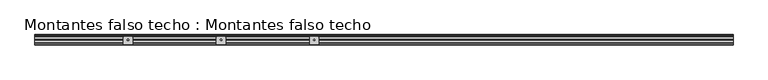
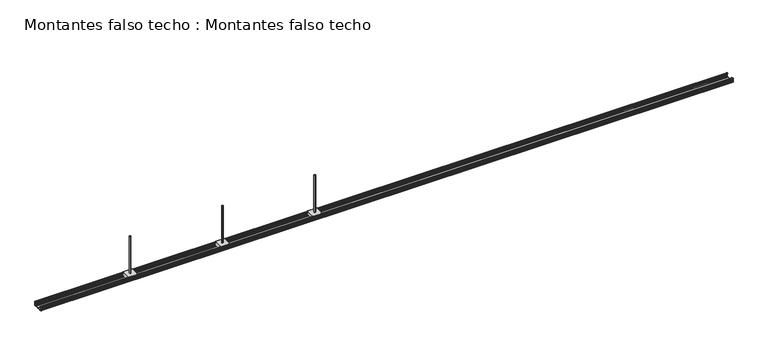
"""IFC4 building model written with IfcOpenShell, lengths in millimetres: proxy geometry, Montantes falso techo : Montantes falso techo."""

from ifc_helpers import new_model, si_unit, point, frame, frame_2d, origin, place, context, project, spatial, polyline, circle_curve, trimmed, segment, composite_curve, outline, extrude, source, transform, mapped, element, save
from ifc_brep_helpers import plane_surface, cylinder_surface, revolved_surface, advanced_brep


def montantes_falso_techo_montantes_falso_techo_cf3b863c(model_context):
    return source(origin(), model_context, "Body", "SolidModel", [
        advanced_brep(
        [(1220.0, 43.5, 20.5482632), (1220.0, 1.5, 20.5482632), (1220.0, 1.0, 20.0482632), (1220.0, 1.0, 18.9163502), (1220.0, 2.4828079, 18.9163502), (1220.0, 6.039567, 18.4830458), (1220.0, 5.9539025, 16.4867218), (1220.0, 1.5116522, 16.4867218), (1220.0, 1.0121251, 15.9649826), (1220.0, 10.5007775, 4.4867218), (1220.0, 34.5007775, 4.4867218), (1220.0, 43.98943, 15.9649826), (1220.0, 43.4899028, 16.4867218), (1220.0, 39.0281213, 16.4867218), (1220.0, 38.9388351, 18.4827278), (1220.0, 42.5171921, 18.9163502), (1220.0, 44.0007775, 18.9163502), (1220.0, 44.0007775, 20.0482632), (1180.0, 43.5, 20.5482632), (1180.0, 44.0, 20.0482632), (1180.0, 44.0007775, 18.9163502), (1180.0, 42.5171921, 18.9163502), (1180.0, 38.9388351, 18.4827278), (1180.0, 39.0281213, 16.4867218), (1180.0, 43.4899028, 16.4867218), (1180.0, 43.98943, 15.9649826), (1180.0, 34.5007775, 4.4867218), (1180.0, 10.5007775, 4.4867218), (1180.0, 1.0121251, 15.9649826), (1180.0, 1.5116522, 16.4867218), (1180.0, 5.9539025, 16.4867218), (1180.0, 6.039567, 18.4830458), (1180.0, 2.4828079, 18.9163502), (1180.0, 1.0, 18.9163502), (1180.0, 1.0, 20.0482632), (1180.0, 1.5, 20.5482632), (1218.0, 2.4828079, 18.9163502), (1218.0, 6.039567, 18.4830458), (1182.0, 6.039567, 18.4830458), (1182.0, 2.4828079, 18.9163502), (1218.0, 5.9539025, 16.4867218), (1182.0, 5.9539025, 16.4867218), (1218.0, 1.5116522, 16.4867218), (1182.0, 1.5116522, 16.4867218), (1218.0, 1.0121251, 15.9649826), (1182.0, 1.0121251, 15.9649826), (1218.0, 10.5007775, 4.4867218), (1182.0, 10.5007775, 4.4867218), (1218.0, 34.5007775, 4.4867218), (1182.0, 34.5007775, 4.4867218), (1218.0, 43.98943, 15.9649826), (1182.0, 43.98943, 15.9649826), (1218.0, 43.4899028, 16.4867218), (1182.0, 43.4899028, 16.4867218), (1218.0, 39.0281213, 16.4867218), (1182.0, 39.0281213, 16.4867218), (1218.0, 38.9388351, 18.4827278), (1182.0, 38.9388351, 18.4827278), (1218.0, 42.5171921, 18.9163502), (1182.0, 42.5171921, 18.9163502)],
        [
            (0, 1),
            (1, 2, circle_curve(frame((1220.0, 1.5, 20.0482632), z_axis=(1.0, 0.0, 0.0), x_axis=(0.0, 1.0, 0.0)), 0.5)),
            (2, 3),
            (3, 4),
            (4, 5),
            (5, 6, circle_curve(frame((1220.0, 5.9539025, 17.4867218), z_axis=(-1.0, 0.0, 0.0), x_axis=(0.0, 1.0, 0.0)), 1.0)),
            (6, 7),
            (7, 8, circle_curve(frame((1220.0, 1.5116522, 15.9867218), z_axis=(1.0, 0.0, 0.0), x_axis=(0.0, 1.0, 0.0)), 0.5)),
            (8, 9, circle_curve(frame((1220.0, 13.7293201, 16.8167271), z_axis=(1.0, 0.0, 0.0), x_axis=(0.0, 1.0, 0.0)), 12.7456862)),
            (9, 10),
            (10, 11, circle_curve(frame((1220.0, 31.272235, 16.8167271), z_axis=(1.0, 0.0, 0.0), x_axis=(0.0, 1.0, 0.0)), 12.7456862)),
            (11, 12, circle_curve(frame((1220.0, 43.4899028, 15.9867218), z_axis=(1.0, 0.0, 0.0), x_axis=(0.0, 1.0, 0.0)), 0.5)),
            (12, 13),
            (13, 14, circle_curve(frame((1220.0, 39.0281213, 17.4867218), z_axis=(-1.0, 0.0, 0.0), x_axis=(0.0, 1.0, 0.0)), 1.0)),
            (14, 15),
            (15, 16),
            (16, 17),
            (17, 0, circle_curve(frame((1220.0, 43.5, 20.0482632), z_axis=(1.0, 0.0, 0.0), x_axis=(0.0, 1.0, 0.0)), 0.5)),
            (18, 19, circle_curve(frame((1180.0, 43.5, 20.0482632), z_axis=(-1.0, 0.0, 0.0), x_axis=(0.0, 1.0, 0.0)), 0.5)),
            (19, 20),
            (20, 21),
            (21, 22),
            (22, 23, circle_curve(frame((1180.0, 39.0281213, 17.4867218), z_axis=(1.0, 0.0, 0.0), x_axis=(0.0, 1.0, 0.0)), 1.0)),
            (23, 24),
            (24, 25, circle_curve(frame((1180.0, 43.4899028, 15.9867218), z_axis=(-1.0, 0.0, 0.0), x_axis=(0.0, 1.0, 0.0)), 0.5)),
            (25, 26, circle_curve(frame((1180.0, 31.272235, 16.8167271), z_axis=(-1.0, 0.0, 0.0), x_axis=(0.0, 1.0, 0.0)), 12.7456862)),
            (26, 27),
            (27, 28, circle_curve(frame((1180.0, 13.7293201, 16.8167271), z_axis=(-1.0, 0.0, 0.0), x_axis=(0.0, 1.0, 0.0)), 12.7456862)),
            (28, 29, circle_curve(frame((1180.0, 1.5116522, 15.9867218), z_axis=(-1.0, 0.0, 0.0), x_axis=(0.0, 1.0, 0.0)), 0.5)),
            (29, 30),
            (30, 31, circle_curve(frame((1180.0, 5.9539025, 17.4867218), z_axis=(1.0, 0.0, 0.0), x_axis=(0.0, 1.0, 0.0)), 1.0)),
            (31, 32),
            (32, 33),
            (33, 34),
            (34, 35, circle_curve(frame((1180.0, 1.5, 20.0482632), z_axis=(-1.0, 0.0, 0.0), x_axis=(0.0, 1.0, 0.0)), 0.5)),
            (35, 18),
            (0, 18),
            (35, 1),
            (34, 2),
            (33, 3),
            (4, 36),
            (36, 37),
            (37, 5),
            (31, 38),
            (38, 39),
            (39, 32),
            (37, 40, circle_curve(frame((1218.0, 5.9539025, 17.4867218), z_axis=(-1.0, 0.0, 0.0), x_axis=(0.0, 1.0, 0.0)), 1.0)),
            (40, 6),
            (30, 41),
            (41, 38, circle_curve(frame((1182.0, 5.9539025, 17.4867218), z_axis=(1.0, 0.0, 0.0), x_axis=(0.0, 1.0, 0.0)), 1.0)),
            (40, 42),
            (42, 7),
            (29, 43),
            (43, 41),
            (42, 44, circle_curve(frame((1218.0, 1.5116522, 15.9867218), z_axis=(1.0, 0.0, 0.0), x_axis=(0.0, 1.0, 0.0)), 0.5)),
            (44, 8),
            (28, 45),
            (45, 43, circle_curve(frame((1182.0, 1.5116522, 15.9867218), z_axis=(-1.0, 0.0, 0.0), x_axis=(0.0, 1.0, 0.0)), 0.5)),
            (44, 46, circle_curve(frame((1218.0, 13.7293201, 16.8167271), z_axis=(1.0, 0.0, 0.0), x_axis=(0.0, 1.0, 0.0)), 12.7456862)),
            (46, 9),
            (27, 47),
            (47, 45, circle_curve(frame((1182.0, 13.7293201, 16.8167271), z_axis=(-1.0, 0.0, 0.0), x_axis=(0.0, 1.0, 0.0)), 12.7456862)),
            (46, 48),
            (48, 10),
            (26, 49),
            (49, 47),
            (48, 50, circle_curve(frame((1218.0, 31.272235, 16.8167271), z_axis=(1.0, 0.0, 0.0), x_axis=(0.0, 1.0, 0.0)), 12.7456862)),
            (50, 11),
            (25, 51),
            (51, 49, circle_curve(frame((1182.0, 31.272235, 16.8167271), z_axis=(-1.0, 0.0, 0.0), x_axis=(0.0, 1.0, 0.0)), 12.7456862)),
            (50, 52, circle_curve(frame((1218.0, 43.4899028, 15.9867218), z_axis=(1.0, 0.0, 0.0), x_axis=(0.0, 1.0, 0.0)), 0.5)),
            (52, 12),
            (24, 53),
            (53, 51, circle_curve(frame((1182.0, 43.4899028, 15.9867218), z_axis=(-1.0, 0.0, 0.0), x_axis=(0.0, 1.0, 0.0)), 0.5)),
            (52, 54),
            (54, 13),
            (23, 55),
            (55, 53),
            (54, 56, circle_curve(frame((1218.0, 39.0281213, 17.4867218), z_axis=(-1.0, 0.0, 0.0), x_axis=(0.0, 1.0, 0.0)), 1.0)),
            (56, 14),
            (22, 57),
            (57, 55, circle_curve(frame((1182.0, 39.0281213, 17.4867218), z_axis=(1.0, 0.0, 0.0), x_axis=(0.0, 1.0, 0.0)), 1.0)),
            (56, 58),
            (58, 15),
            (21, 59),
            (59, 57),
            (16, 20),
            (19, 17),
            (36, 58),
            (59, 39),
        ],
        [
            plane_surface(frame((1220.0, 1.5, 20.5482632), z_axis=(1.0, 0.0, 0.0), x_axis=(0.0, -1.0, -2.4252718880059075e-12))),
            plane_surface(frame((1180.0, 1.5, 20.5482632), z_axis=(-1.0, 0.0, 0.0), x_axis=(0.0, 1.0, 2.4252718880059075e-12))),
            plane_surface(frame((1220.0, 43.5, 20.5482632), z_axis=(0.0, -2.4252718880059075e-12, 1.0), x_axis=(-1.0, 0.0, 0.0))),
            cylinder_surface(frame((1180.0, 1.5, 20.0482632), z_axis=(1.0, 0.0, 0.0), x_axis=(0.0, 1.0, 0.0)), 0.5),
            plane_surface(frame((1220.0, 1.0, 20.0482632), z_axis=(0.0, -1.0, 0.0), x_axis=(-1.0, 0.0, 0.0))),
            plane_surface(frame((1220.0, 2.4828079, 18.9163502), z_axis=(0.0, -0.12093153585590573, -0.9926608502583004), x_axis=(-1.0, 0.0, 0.0))),
            revolved_surface(polyline([(1218.0, 6.9539025, 17.4867218), (1220.0, 6.9539025, 17.4867218)]), (1180.0, 5.9539025, 17.4867218), (-1.0, 0.0, 0.0)),
            revolved_surface(polyline([(1180.0, 6.9539025, 17.4867218), (1182.0, 6.9539025, 17.4867218)]), (1180.0, 5.9539025, 17.4867218), (-1.0, 0.0, 0.0)),
            plane_surface(frame((1220.0, 5.9539025, 16.4867218), z_axis=(0.0, -2.2931091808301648e-11, 1.0), x_axis=(-1.0, 0.0, 0.0))),
            cylinder_surface(frame((1180.0, 1.5116522, 15.9867218), z_axis=(1.0, 0.0, 0.0), x_axis=(0.0, 1.0, 0.0)), 0.5),
            cylinder_surface(frame((1180.0, 13.7293201, 16.8167271), z_axis=(1.0, 0.0, 0.0), x_axis=(0.0, 1.0, 0.0)), 12.7456862),
            plane_surface(frame((1220.0, 10.5007775, 4.4867218), z_axis=(0.0, 0.0, -1.0), x_axis=(-1.0, 0.0, 0.0))),
            cylinder_surface(frame((1180.0, 31.272235, 16.8167271), z_axis=(1.0, 0.0, 0.0), x_axis=(0.0, 1.0, 0.0)), 12.7456862),
            cylinder_surface(frame((1180.0, 43.4899028, 15.9867218), z_axis=(1.0, 0.0, 0.0), x_axis=(0.0, 1.0, 0.0)), 0.5),
            plane_surface(frame((1220.0, 43.4899028, 16.4867218), z_axis=(0.0, -1.5818150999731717e-10, 1.0), x_axis=(-1.0, 0.0, 0.0))),
            revolved_surface(polyline([(1218.0, 40.0281213, 17.4867218), (1220.0, 40.0281213, 17.4867218)]), (1180.0, 39.0281213, 17.4867218), (-1.0, 0.0, 0.0)),
            revolved_surface(polyline([(1180.0, 40.0281213, 17.4867218), (1182.0, 40.0281213, 17.4867218)]), (1180.0, 39.0281213, 17.4867218), (-1.0, 0.0, 0.0)),
            plane_surface(frame((1220.0, 38.9388351, 18.4827278), z_axis=(0.0, 0.12029916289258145, -0.9927376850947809), x_axis=(-1.0, 0.0, 0.0))),
            plane_surface(frame((1220.0, 44.0007775, 18.9163502), z_axis=(0.0, 1.0, 0.0), x_axis=(-1.0, 0.0, 0.0))),
            cylinder_surface(frame((1180.0, 43.5, 20.0482632), z_axis=(1.0, 0.0, 0.0), x_axis=(0.0, 1.0, 0.0)), 0.5),
            plane_surface(frame((1218.0, 0.0007775, 18.9163502), z_axis=(-1.0, 0.0, 0.0), x_axis=(0.0, 0.0, -1.0))),
            plane_surface(frame((1182.0, 46.4661896, 18.9163502), z_axis=(1.0, 0.0, 0.0), x_axis=(0.0, 0.0, -1.0))),
            plane_surface(frame((1220.0, 1.0, 18.9163502), z_axis=(0.0, 0.0, -1.0), x_axis=(-1.0, 0.0, 0.0))),
        ],
        [
            (0, [[1, 2, 3, 4, 5, 6, 7, 8, 9, 10, 11, 12, 13, 14, 15, 16, 17, 18]]),
            (1, [[19, 20, 21, 22, 23, 24, 25, 26, 27, 28, 29, 30, 31, 32, 33, 34, 35, 36]]),
            (2, [[-1, 37, -36, 38]]),
            (3, [[-2, -38, -35, 39]]),
            (4, [[40, -3, -39, -34]]),
            (5, [[-5, 41, 42, 43]]),
            (5, [[-32, 44, 45, 46]]),
            (6, [[-6, -43, 47, 48]]),
            (7, [[-31, 49, 50, -44]]),
            (8, [[-7, -48, 51, 52]]),
            (8, [[-30, 53, 54, -49]]),
            (9, [[-8, -52, 55, 56]]),
            (9, [[-29, 57, 58, -53]]),
            (10, [[-9, -56, 59, 60]]),
            (10, [[-28, 61, 62, -57]]),
            (11, [[-10, -60, 63, 64]]),
            (11, [[-27, 65, 66, -61]]),
            (12, [[-11, -64, 67, 68]]),
            (12, [[-26, 69, 70, -65]]),
            (13, [[-12, -68, 71, 72]]),
            (13, [[-25, 73, 74, -69]]),
            (14, [[-13, -72, 75, 76]]),
            (14, [[-24, 77, 78, -73]]),
            (15, [[-14, -76, 79, 80]]),
            (16, [[-23, 81, 82, -77]]),
            (17, [[-15, -80, 83, 84]]),
            (17, [[-22, 85, 86, -81]]),
            (18, [[-17, 87, -20, 88]]),
            (19, [[-18, -88, -19, -37]]),
            (20, [[89, -83, -79, -75, -71, -67, -63, -59, -55, -51, -47, -42]]),
            (21, [[90, -45, -50, -54, -58, -62, -66, -70, -74, -78, -82, -86]]),
            (22, [[-4, -40, -33, -46, -90, -85, -21, -87, -16, -84, -89, -41]]),
        ],
    ),
        extrude(outline(composite_curve([segment(trimmed(circle_curve(frame_2d((1200.0, 22.5)), 3.0), [point((1200.0, 19.5))], [point((1200.0, 25.5))], False, "CARTESIAN"), True, "CONTINUOUS"), segment(trimmed(circle_curve(frame_2d((1200.0, 22.5)), 3.0), [point((1200.0, 25.5))], [point((1200.0, 19.5))], False, "CARTESIAN"), True, "CONTINUOUS")], self_intersect=False)), frame((0.0, 0.0, 20.5482632), z_axis=(0.0, 0.0, 1.0), x_axis=(1.0, 0.0, 0.0)), (0.0, 0.0, 1.0), 169.4517368),
        advanced_brep(
        [(820.0, 43.5, 20.5482632), (820.0, 1.5, 20.5482632), (820.0, 1.0, 20.0482632), (820.0, 1.0, 18.9163502), (820.0, 2.4828079, 18.9163502), (820.0, 6.039567, 18.4830458), (820.0, 5.9539025, 16.4867218), (820.0, 1.5116522, 16.4867218), (820.0, 1.0121251, 15.9649826), (820.0, 10.5007775, 4.4867218), (820.0, 34.5007775, 4.4867218), (820.0, 43.98943, 15.9649826), (820.0, 43.4899028, 16.4867218), (820.0, 39.0281213, 16.4867218), (820.0, 38.9388351, 18.4827278), (820.0, 42.5171921, 18.9163502), (820.0, 44.0007775, 18.9163502), (820.0, 44.0007775, 20.0482632), (780.0, 43.5, 20.5482632), (780.0, 44.0, 20.0482632), (780.0, 44.0007775, 18.9163502), (780.0, 42.5171921, 18.9163502), (780.0, 38.9388351, 18.4827278), (780.0, 39.0281213, 16.4867218), (780.0, 43.4899028, 16.4867218), (780.0, 43.98943, 15.9649826), (780.0, 34.5007775, 4.4867218), (780.0, 10.5007775, 4.4867218), (780.0, 1.0121251, 15.9649826), (780.0, 1.5116522, 16.4867218), (780.0, 5.9539025, 16.4867218), (780.0, 6.039567, 18.4830458), (780.0, 2.4828079, 18.9163502), (780.0, 1.0, 18.9163502), (780.0, 1.0, 20.0482632), (780.0, 1.5, 20.5482632), (818.0, 2.4828079, 18.9163502), (818.0, 6.039567, 18.4830458), (782.0, 6.039567, 18.4830458), (782.0, 2.4828079, 18.9163502), (818.0, 5.9539025, 16.4867218), (782.0, 5.9539025, 16.4867218), (818.0, 1.5116522, 16.4867218), (782.0, 1.5116522, 16.4867218), (818.0, 1.0121251, 15.9649826), (782.0, 1.0121251, 15.9649826), (818.0, 10.5007775, 4.4867218), (782.0, 10.5007775, 4.4867218), (818.0, 34.5007775, 4.4867218), (782.0, 34.5007775, 4.4867218), (818.0, 43.98943, 15.9649826), (782.0, 43.98943, 15.9649826), (818.0, 43.4899028, 16.4867218), (782.0, 43.4899028, 16.4867218), (818.0, 39.0281213, 16.4867218), (782.0, 39.0281213, 16.4867218), (818.0, 38.9388351, 18.4827278), (782.0, 38.9388351, 18.4827278), (818.0, 42.5171921, 18.9163502), (782.0, 42.5171921, 18.9163502)],
        [
            (0, 1),
            (1, 2, circle_curve(frame((820.0, 1.5, 20.0482632), z_axis=(1.0, 0.0, 0.0), x_axis=(0.0, 1.0, 0.0)), 0.5)),
            (2, 3),
            (3, 4),
            (4, 5),
            (5, 6, circle_curve(frame((820.0, 5.9539025, 17.4867218), z_axis=(-1.0, 0.0, 0.0), x_axis=(0.0, 1.0, 0.0)), 1.0)),
            (6, 7),
            (7, 8, circle_curve(frame((820.0, 1.5116522, 15.9867218), z_axis=(1.0, 0.0, 0.0), x_axis=(0.0, 1.0, 0.0)), 0.5)),
            (8, 9, circle_curve(frame((820.0, 13.7293201, 16.8167271), z_axis=(1.0, 0.0, 0.0), x_axis=(0.0, 1.0, 0.0)), 12.7456862)),
            (9, 10),
            (10, 11, circle_curve(frame((820.0, 31.272235, 16.8167271), z_axis=(1.0, 0.0, 0.0), x_axis=(0.0, 1.0, 0.0)), 12.7456862)),
            (11, 12, circle_curve(frame((820.0, 43.4899028, 15.9867218), z_axis=(1.0, 0.0, 0.0), x_axis=(0.0, 1.0, 0.0)), 0.5)),
            (12, 13),
            (13, 14, circle_curve(frame((820.0, 39.0281213, 17.4867218), z_axis=(-1.0, 0.0, 0.0), x_axis=(0.0, 1.0, 0.0)), 1.0)),
            (14, 15),
            (15, 16),
            (16, 17),
            (17, 0, circle_curve(frame((820.0, 43.5, 20.0482632), z_axis=(1.0, 0.0, 0.0), x_axis=(0.0, 1.0, 0.0)), 0.5)),
            (18, 19, circle_curve(frame((780.0, 43.5, 20.0482632), z_axis=(-1.0, 0.0, 0.0), x_axis=(0.0, 1.0, 0.0)), 0.5)),
            (19, 20),
            (20, 21),
            (21, 22),
            (22, 23, circle_curve(frame((780.0, 39.0281213, 17.4867218), z_axis=(1.0, 0.0, 0.0), x_axis=(0.0, 1.0, 0.0)), 1.0)),
            (23, 24),
            (24, 25, circle_curve(frame((780.0, 43.4899028, 15.9867218), z_axis=(-1.0, 0.0, 0.0), x_axis=(0.0, 1.0, 0.0)), 0.5)),
            (25, 26, circle_curve(frame((780.0, 31.272235, 16.8167271), z_axis=(-1.0, 0.0, 0.0), x_axis=(0.0, 1.0, 0.0)), 12.7456862)),
            (26, 27),
            (27, 28, circle_curve(frame((780.0, 13.7293201, 16.8167271), z_axis=(-1.0, 0.0, 0.0), x_axis=(0.0, 1.0, 0.0)), 12.7456862)),
            (28, 29, circle_curve(frame((780.0, 1.5116522, 15.9867218), z_axis=(-1.0, 0.0, 0.0), x_axis=(0.0, 1.0, 0.0)), 0.5)),
            (29, 30),
            (30, 31, circle_curve(frame((780.0, 5.9539025, 17.4867218), z_axis=(1.0, 0.0, 0.0), x_axis=(0.0, 1.0, 0.0)), 1.0)),
            (31, 32),
            (32, 33),
            (33, 34),
            (34, 35, circle_curve(frame((780.0, 1.5, 20.0482632), z_axis=(-1.0, 0.0, 0.0), x_axis=(0.0, 1.0, 0.0)), 0.5)),
            (35, 18),
            (0, 18),
            (35, 1),
            (34, 2),
            (33, 3),
            (4, 36),
            (36, 37),
            (37, 5),
            (31, 38),
            (38, 39),
            (39, 32),
            (37, 40, circle_curve(frame((818.0, 5.9539025, 17.4867218), z_axis=(-1.0, 0.0, 0.0), x_axis=(0.0, 1.0, 0.0)), 1.0)),
            (40, 6),
            (30, 41),
            (41, 38, circle_curve(frame((782.0, 5.9539025, 17.4867218), z_axis=(1.0, 0.0, 0.0), x_axis=(0.0, 1.0, 0.0)), 1.0)),
            (40, 42),
            (42, 7),
            (29, 43),
            (43, 41),
            (42, 44, circle_curve(frame((818.0, 1.5116522, 15.9867218), z_axis=(1.0, 0.0, 0.0), x_axis=(0.0, 1.0, 0.0)), 0.5)),
            (44, 8),
            (28, 45),
            (45, 43, circle_curve(frame((782.0, 1.5116522, 15.9867218), z_axis=(-1.0, 0.0, 0.0), x_axis=(0.0, 1.0, 0.0)), 0.5)),
            (44, 46, circle_curve(frame((818.0, 13.7293201, 16.8167271), z_axis=(1.0, 0.0, 0.0), x_axis=(0.0, 1.0, 0.0)), 12.7456862)),
            (46, 9),
            (27, 47),
            (47, 45, circle_curve(frame((782.0, 13.7293201, 16.8167271), z_axis=(-1.0, 0.0, 0.0), x_axis=(0.0, 1.0, 0.0)), 12.7456862)),
            (46, 48),
            (48, 10),
            (26, 49),
            (49, 47),
            (48, 50, circle_curve(frame((818.0, 31.272235, 16.8167271), z_axis=(1.0, 0.0, 0.0), x_axis=(0.0, 1.0, 0.0)), 12.7456862)),
            (50, 11),
            (25, 51),
            (51, 49, circle_curve(frame((782.0, 31.272235, 16.8167271), z_axis=(-1.0, 0.0, 0.0), x_axis=(0.0, 1.0, 0.0)), 12.7456862)),
            (50, 52, circle_curve(frame((818.0, 43.4899028, 15.9867218), z_axis=(1.0, 0.0, 0.0), x_axis=(0.0, 1.0, 0.0)), 0.5)),
            (52, 12),
            (24, 53),
            (53, 51, circle_curve(frame((782.0, 43.4899028, 15.9867218), z_axis=(-1.0, 0.0, 0.0), x_axis=(0.0, 1.0, 0.0)), 0.5)),
            (52, 54),
            (54, 13),
            (23, 55),
            (55, 53),
            (54, 56, circle_curve(frame((818.0, 39.0281213, 17.4867218), z_axis=(-1.0, 0.0, 0.0), x_axis=(0.0, 1.0, 0.0)), 1.0)),
            (56, 14),
            (22, 57),
            (57, 55, circle_curve(frame((782.0, 39.0281213, 17.4867218), z_axis=(1.0, 0.0, 0.0), x_axis=(0.0, 1.0, 0.0)), 1.0)),
            (56, 58),
            (58, 15),
            (21, 59),
            (59, 57),
            (16, 20),
            (19, 17),
            (36, 58),
            (59, 39),
        ],
        [
            plane_surface(frame((820.0, 1.5, 20.5482632), z_axis=(1.0, 0.0, 0.0), x_axis=(0.0, -1.0, -2.4252718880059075e-12))),
            plane_surface(frame((780.0, 1.5, 20.5482632), z_axis=(-1.0, 0.0, 0.0), x_axis=(0.0, 1.0, 2.4252718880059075e-12))),
            plane_surface(frame((820.0, 43.5, 20.5482632), z_axis=(0.0, -2.4252718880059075e-12, 1.0), x_axis=(-1.0, 0.0, 0.0))),
            cylinder_surface(frame((780.0, 1.5, 20.0482632), z_axis=(1.0, 0.0, 0.0), x_axis=(0.0, 1.0, 0.0)), 0.5),
            plane_surface(frame((820.0, 1.0, 20.0482632), z_axis=(0.0, -1.0, 0.0), x_axis=(-1.0, 0.0, 0.0))),
            plane_surface(frame((820.0, 2.4828079, 18.9163502), z_axis=(0.0, -0.12093153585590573, -0.9926608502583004), x_axis=(-1.0, 0.0, 0.0))),
            revolved_surface(polyline([(818.0, 6.9539025, 17.4867218), (820.0, 6.9539025, 17.4867218)]), (780.0, 5.9539025, 17.4867218), (-1.0, 0.0, 0.0)),
            revolved_surface(polyline([(780.0, 6.9539025, 17.4867218), (782.0, 6.9539025, 17.4867218)]), (780.0, 5.9539025, 17.4867218), (-1.0, 0.0, 0.0)),
            plane_surface(frame((820.0, 5.9539025, 16.4867218), z_axis=(0.0, -2.2931091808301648e-11, 1.0), x_axis=(-1.0, 0.0, 0.0))),
            cylinder_surface(frame((780.0, 1.5116522, 15.9867218), z_axis=(1.0, 0.0, 0.0), x_axis=(0.0, 1.0, 0.0)), 0.5),
            cylinder_surface(frame((780.0, 13.7293201, 16.8167271), z_axis=(1.0, 0.0, 0.0), x_axis=(0.0, 1.0, 0.0)), 12.7456862),
            plane_surface(frame((820.0, 10.5007775, 4.4867218), z_axis=(0.0, 0.0, -1.0), x_axis=(-1.0, 0.0, 0.0))),
            cylinder_surface(frame((780.0, 31.272235, 16.8167271), z_axis=(1.0, 0.0, 0.0), x_axis=(0.0, 1.0, 0.0)), 12.7456862),
            cylinder_surface(frame((780.0, 43.4899028, 15.9867218), z_axis=(1.0, 0.0, 0.0), x_axis=(0.0, 1.0, 0.0)), 0.5),
            plane_surface(frame((820.0, 43.4899028, 16.4867218), z_axis=(0.0, -1.5818150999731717e-10, 1.0), x_axis=(-1.0, 0.0, 0.0))),
            revolved_surface(polyline([(818.0, 40.0281213, 17.4867218), (820.0, 40.0281213, 17.4867218)]), (780.0, 39.0281213, 17.4867218), (-1.0, 0.0, 0.0)),
            revolved_surface(polyline([(780.0, 40.0281213, 17.4867218), (782.0, 40.0281213, 17.4867218)]), (780.0, 39.0281213, 17.4867218), (-1.0, 0.0, 0.0)),
            plane_surface(frame((820.0, 38.9388351, 18.4827278), z_axis=(0.0, 0.12029916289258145, -0.9927376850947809), x_axis=(-1.0, 0.0, 0.0))),
            plane_surface(frame((820.0, 44.0007775, 18.9163502), z_axis=(0.0, 1.0, 0.0), x_axis=(-1.0, 0.0, 0.0))),
            cylinder_surface(frame((780.0, 43.5, 20.0482632), z_axis=(1.0, 0.0, 0.0), x_axis=(0.0, 1.0, 0.0)), 0.5),
            plane_surface(frame((818.0, 0.0007775, 18.9163502), z_axis=(-1.0, 0.0, 0.0), x_axis=(0.0, 0.0, -1.0))),
            plane_surface(frame((782.0, 46.4661896, 18.9163502), z_axis=(1.0, 0.0, 0.0), x_axis=(0.0, 0.0, -1.0))),
            plane_surface(frame((820.0, 1.0, 18.9163502), z_axis=(0.0, 0.0, -1.0), x_axis=(-1.0, 0.0, 0.0))),
        ],
        [
            (0, [[1, 2, 3, 4, 5, 6, 7, 8, 9, 10, 11, 12, 13, 14, 15, 16, 17, 18]]),
            (1, [[19, 20, 21, 22, 23, 24, 25, 26, 27, 28, 29, 30, 31, 32, 33, 34, 35, 36]]),
            (2, [[-1, 37, -36, 38]]),
            (3, [[-2, -38, -35, 39]]),
            (4, [[40, -3, -39, -34]]),
            (5, [[-5, 41, 42, 43]]),
            (5, [[-32, 44, 45, 46]]),
            (6, [[-6, -43, 47, 48]]),
            (7, [[-31, 49, 50, -44]]),
            (8, [[-7, -48, 51, 52]]),
            (8, [[-30, 53, 54, -49]]),
            (9, [[-8, -52, 55, 56]]),
            (9, [[-29, 57, 58, -53]]),
            (10, [[-9, -56, 59, 60]]),
            (10, [[-28, 61, 62, -57]]),
            (11, [[-10, -60, 63, 64]]),
            (11, [[-27, 65, 66, -61]]),
            (12, [[-11, -64, 67, 68]]),
            (12, [[-26, 69, 70, -65]]),
            (13, [[-12, -68, 71, 72]]),
            (13, [[-25, 73, 74, -69]]),
            (14, [[-13, -72, 75, 76]]),
            (14, [[-24, 77, 78, -73]]),
            (15, [[-14, -76, 79, 80]]),
            (16, [[-23, 81, 82, -77]]),
            (17, [[-15, -80, 83, 84]]),
            (17, [[-22, 85, 86, -81]]),
            (18, [[-17, 87, -20, 88]]),
            (19, [[-18, -88, -19, -37]]),
            (20, [[89, -83, -79, -75, -71, -67, -63, -59, -55, -51, -47, -42]]),
            (21, [[90, -45, -50, -54, -58, -62, -66, -70, -74, -78, -82, -86]]),
            (22, [[-4, -40, -33, -46, -90, -85, -21, -87, -16, -84, -89, -41]]),
        ],
    ),
        extrude(outline(composite_curve([segment(trimmed(circle_curve(frame_2d((800.0, 22.5)), 3.0), [point((800.0, 19.5))], [point((800.0, 25.5))], False, "CARTESIAN"), True, "CONTINUOUS"), segment(trimmed(circle_curve(frame_2d((800.0, 22.5)), 3.0), [point((800.0, 25.5))], [point((800.0, 19.5))], False, "CARTESIAN"), True, "CONTINUOUS")], self_intersect=False)), frame((0.0, 0.0, 20.5482632), z_axis=(0.0, 0.0, 1.0), x_axis=(1.0, 0.0, 0.0)), (0.0, 0.0, 1.0), 169.4517368),
        advanced_brep(
        [(420.0, 43.5, 20.5482632), (420.0, 1.5, 20.5482632), (420.0, 1.0, 20.0482632), (420.0, 1.0, 18.9163502), (420.0, 2.4828079, 18.9163502), (420.0, 6.039567, 18.4830458), (420.0, 5.9539025, 16.4867218), (420.0, 1.5116522, 16.4867218), (420.0, 1.0121251, 15.9649826), (420.0, 10.5007775, 4.4867218), (420.0, 34.5007775, 4.4867218), (420.0, 43.98943, 15.9649826), (420.0, 43.4899028, 16.4867218), (420.0, 39.0281213, 16.4867218), (420.0, 38.9388351, 18.4827278), (420.0, 42.5171921, 18.9163502), (420.0, 44.0007775, 18.9163502), (420.0, 44.0007775, 20.0482632), (380.0, 43.5, 20.5482632), (380.0, 44.0, 20.0482632), (380.0, 44.0007775, 18.9163502), (380.0, 42.5171921, 18.9163502), (380.0, 38.9388351, 18.4827278), (380.0, 39.0281213, 16.4867218), (380.0, 43.4899028, 16.4867218), (380.0, 43.98943, 15.9649826), (380.0, 34.5007775, 4.4867218), (380.0, 10.5007775, 4.4867218), (380.0, 1.0121251, 15.9649826), (380.0, 1.5116522, 16.4867218), (380.0, 5.9539025, 16.4867218), (380.0, 6.039567, 18.4830458), (380.0, 2.4828079, 18.9163502), (380.0, 1.0, 18.9163502), (380.0, 1.0, 20.0482632), (380.0, 1.5, 20.5482632), (418.0, 2.4828079, 18.9163502), (418.0, 6.039567, 18.4830458), (382.0, 6.039567, 18.4830458), (382.0, 2.4828079, 18.9163502), (418.0, 5.9539025, 16.4867218), (382.0, 5.9539025, 16.4867218), (418.0, 1.5116522, 16.4867218), (382.0, 1.5116522, 16.4867218), (418.0, 1.0121251, 15.9649826), (382.0, 1.0121251, 15.9649826), (418.0, 10.5007775, 4.4867218), (382.0, 10.5007775, 4.4867218), (418.0, 34.5007775, 4.4867218), (382.0, 34.5007775, 4.4867218), (418.0, 43.98943, 15.9649826), (382.0, 43.98943, 15.9649826), (418.0, 43.4899028, 16.4867218), (382.0, 43.4899028, 16.4867218), (418.0, 39.0281213, 16.4867218), (382.0, 39.0281213, 16.4867218), (418.0, 38.9388351, 18.4827278), (382.0, 38.9388351, 18.4827278), (418.0, 42.5171921, 18.9163502), (382.0, 42.5171921, 18.9163502)],
        [
            (0, 1),
            (1, 2, circle_curve(frame((420.0, 1.5, 20.0482632), z_axis=(1.0, 0.0, 0.0), x_axis=(0.0, 1.0, 0.0)), 0.5)),
            (2, 3),
            (3, 4),
            (4, 5),
            (5, 6, circle_curve(frame((420.0, 5.9539025, 17.4867218), z_axis=(-1.0, 0.0, 0.0), x_axis=(0.0, 1.0, 0.0)), 1.0)),
            (6, 7),
            (7, 8, circle_curve(frame((420.0, 1.5116522, 15.9867218), z_axis=(1.0, 0.0, 0.0), x_axis=(0.0, 1.0, 0.0)), 0.5)),
            (8, 9, circle_curve(frame((420.0, 13.7293201, 16.8167271), z_axis=(1.0, 0.0, 0.0), x_axis=(0.0, 1.0, 0.0)), 12.7456862)),
            (9, 10),
            (10, 11, circle_curve(frame((420.0, 31.272235, 16.8167271), z_axis=(1.0, 0.0, 0.0), x_axis=(0.0, 1.0, 0.0)), 12.7456862)),
            (11, 12, circle_curve(frame((420.0, 43.4899028, 15.9867218), z_axis=(1.0, 0.0, 0.0), x_axis=(0.0, 1.0, 0.0)), 0.5)),
            (12, 13),
            (13, 14, circle_curve(frame((420.0, 39.0281213, 17.4867218), z_axis=(-1.0, 0.0, 0.0), x_axis=(0.0, 1.0, 0.0)), 1.0)),
            (14, 15),
            (15, 16),
            (16, 17),
            (17, 0, circle_curve(frame((420.0, 43.5, 20.0482632), z_axis=(1.0, 0.0, 0.0), x_axis=(0.0, 1.0, 0.0)), 0.5)),
            (18, 19, circle_curve(frame((380.0, 43.5, 20.0482632), z_axis=(-1.0, 0.0, 0.0), x_axis=(0.0, 1.0, 0.0)), 0.5)),
            (19, 20),
            (20, 21),
            (21, 22),
            (22, 23, circle_curve(frame((380.0, 39.0281213, 17.4867218), z_axis=(1.0, 0.0, 0.0), x_axis=(0.0, 1.0, 0.0)), 1.0)),
            (23, 24),
            (24, 25, circle_curve(frame((380.0, 43.4899028, 15.9867218), z_axis=(-1.0, 0.0, 0.0), x_axis=(0.0, 1.0, 0.0)), 0.5)),
            (25, 26, circle_curve(frame((380.0, 31.272235, 16.8167271), z_axis=(-1.0, 0.0, 0.0), x_axis=(0.0, 1.0, 0.0)), 12.7456862)),
            (26, 27),
            (27, 28, circle_curve(frame((380.0, 13.7293201, 16.8167271), z_axis=(-1.0, 0.0, 0.0), x_axis=(0.0, 1.0, 0.0)), 12.7456862)),
            (28, 29, circle_curve(frame((380.0, 1.5116522, 15.9867218), z_axis=(-1.0, 0.0, 0.0), x_axis=(0.0, 1.0, 0.0)), 0.5)),
            (29, 30),
            (30, 31, circle_curve(frame((380.0, 5.9539025, 17.4867218), z_axis=(1.0, 0.0, 0.0), x_axis=(0.0, 1.0, 0.0)), 1.0)),
            (31, 32),
            (32, 33),
            (33, 34),
            (34, 35, circle_curve(frame((380.0, 1.5, 20.0482632), z_axis=(-1.0, 0.0, 0.0), x_axis=(0.0, 1.0, 0.0)), 0.5)),
            (35, 18),
            (0, 18),
            (35, 1),
            (34, 2),
            (33, 3),
            (4, 36),
            (36, 37),
            (37, 5),
            (31, 38),
            (38, 39),
            (39, 32),
            (37, 40, circle_curve(frame((418.0, 5.9539025, 17.4867218), z_axis=(-1.0, 0.0, 0.0), x_axis=(0.0, 1.0, 0.0)), 1.0)),
            (40, 6),
            (30, 41),
            (41, 38, circle_curve(frame((382.0, 5.9539025, 17.4867218), z_axis=(1.0, 0.0, 0.0), x_axis=(0.0, 1.0, 0.0)), 1.0)),
            (40, 42),
            (42, 7),
            (29, 43),
            (43, 41),
            (42, 44, circle_curve(frame((418.0, 1.5116522, 15.9867218), z_axis=(1.0, 0.0, 0.0), x_axis=(0.0, 1.0, 0.0)), 0.5)),
            (44, 8),
            (28, 45),
            (45, 43, circle_curve(frame((382.0, 1.5116522, 15.9867218), z_axis=(-1.0, 0.0, 0.0), x_axis=(0.0, 1.0, 0.0)), 0.5)),
            (44, 46, circle_curve(frame((418.0, 13.7293201, 16.8167271), z_axis=(1.0, 0.0, 0.0), x_axis=(0.0, 1.0, 0.0)), 12.7456862)),
            (46, 9),
            (27, 47),
            (47, 45, circle_curve(frame((382.0, 13.7293201, 16.8167271), z_axis=(-1.0, 0.0, 0.0), x_axis=(0.0, 1.0, 0.0)), 12.7456862)),
            (46, 48),
            (48, 10),
            (26, 49),
            (49, 47),
            (48, 50, circle_curve(frame((418.0, 31.272235, 16.8167271), z_axis=(1.0, 0.0, 0.0), x_axis=(0.0, 1.0, 0.0)), 12.7456862)),
            (50, 11),
            (25, 51),
            (51, 49, circle_curve(frame((382.0, 31.272235, 16.8167271), z_axis=(-1.0, 0.0, 0.0), x_axis=(0.0, 1.0, 0.0)), 12.7456862)),
            (50, 52, circle_curve(frame((418.0, 43.4899028, 15.9867218), z_axis=(1.0, 0.0, 0.0), x_axis=(0.0, 1.0, 0.0)), 0.5)),
            (52, 12),
            (24, 53),
            (53, 51, circle_curve(frame((382.0, 43.4899028, 15.9867218), z_axis=(-1.0, 0.0, 0.0), x_axis=(0.0, 1.0, 0.0)), 0.5)),
            (52, 54),
            (54, 13),
            (23, 55),
            (55, 53),
            (54, 56, circle_curve(frame((418.0, 39.0281213, 17.4867218), z_axis=(-1.0, 0.0, 0.0), x_axis=(0.0, 1.0, 0.0)), 1.0)),
            (56, 14),
            (22, 57),
            (57, 55, circle_curve(frame((382.0, 39.0281213, 17.4867218), z_axis=(1.0, 0.0, 0.0), x_axis=(0.0, 1.0, 0.0)), 1.0)),
            (56, 58),
            (58, 15),
            (21, 59),
            (59, 57),
            (16, 20),
            (19, 17),
            (36, 58),
            (59, 39),
        ],
        [
            plane_surface(frame((420.0, 1.5, 20.5482632), z_axis=(1.0, 0.0, 0.0), x_axis=(0.0, -1.0, -2.4252718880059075e-12))),
            plane_surface(frame((380.0, 1.5, 20.5482632), z_axis=(-1.0, 0.0, 0.0), x_axis=(0.0, 1.0, 2.4252718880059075e-12))),
            plane_surface(frame((420.0, 43.5, 20.5482632), z_axis=(0.0, -2.4252718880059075e-12, 1.0), x_axis=(-1.0, 0.0, 0.0))),
            cylinder_surface(frame((380.0, 1.5, 20.0482632), z_axis=(1.0, 0.0, 0.0), x_axis=(0.0, 1.0, 0.0)), 0.5),
            plane_surface(frame((420.0, 1.0, 20.0482632), z_axis=(0.0, -1.0, 0.0), x_axis=(-1.0, 0.0, 0.0))),
            plane_surface(frame((420.0, 2.4828079, 18.9163502), z_axis=(0.0, -0.12093153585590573, -0.9926608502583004), x_axis=(-1.0, 0.0, 0.0))),
            revolved_surface(polyline([(418.0, 6.9539025, 17.4867218), (420.0, 6.9539025, 17.4867218)]), (380.0, 5.9539025, 17.4867218), (-1.0, 0.0, 0.0)),
            revolved_surface(polyline([(380.0, 6.9539025, 17.4867218), (382.0, 6.9539025, 17.4867218)]), (380.0, 5.9539025, 17.4867218), (-1.0, 0.0, 0.0)),
            plane_surface(frame((420.0, 5.9539025, 16.4867218), z_axis=(0.0, -2.2931091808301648e-11, 1.0), x_axis=(-1.0, 0.0, 0.0))),
            cylinder_surface(frame((380.0, 1.5116522, 15.9867218), z_axis=(1.0, 0.0, 0.0), x_axis=(0.0, 1.0, 0.0)), 0.5),
            cylinder_surface(frame((380.0, 13.7293201, 16.8167271), z_axis=(1.0, 0.0, 0.0), x_axis=(0.0, 1.0, 0.0)), 12.7456862),
            plane_surface(frame((420.0, 10.5007775, 4.4867218), z_axis=(0.0, 0.0, -1.0), x_axis=(-1.0, 0.0, 0.0))),
            cylinder_surface(frame((380.0, 31.272235, 16.8167271), z_axis=(1.0, 0.0, 0.0), x_axis=(0.0, 1.0, 0.0)), 12.7456862),
            cylinder_surface(frame((380.0, 43.4899028, 15.9867218), z_axis=(1.0, 0.0, 0.0), x_axis=(0.0, 1.0, 0.0)), 0.5),
            plane_surface(frame((420.0, 43.4899028, 16.4867218), z_axis=(0.0, -1.5818150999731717e-10, 1.0), x_axis=(-1.0, 0.0, 0.0))),
            revolved_surface(polyline([(418.0, 40.0281213, 17.4867218), (420.0, 40.0281213, 17.4867218)]), (380.0, 39.0281213, 17.4867218), (-1.0, 0.0, 0.0)),
            revolved_surface(polyline([(380.0, 40.0281213, 17.4867218), (382.0, 40.0281213, 17.4867218)]), (380.0, 39.0281213, 17.4867218), (-1.0, 0.0, 0.0)),
            plane_surface(frame((420.0, 38.9388351, 18.4827278), z_axis=(0.0, 0.12029916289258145, -0.9927376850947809), x_axis=(-1.0, 0.0, 0.0))),
            plane_surface(frame((420.0, 44.0007775, 18.9163502), z_axis=(0.0, 1.0, 0.0), x_axis=(-1.0, 0.0, 0.0))),
            cylinder_surface(frame((380.0, 43.5, 20.0482632), z_axis=(1.0, 0.0, 0.0), x_axis=(0.0, 1.0, 0.0)), 0.5),
            plane_surface(frame((418.0, 0.0007775, 18.9163502), z_axis=(-1.0, 0.0, 0.0), x_axis=(0.0, 0.0, -1.0))),
            plane_surface(frame((382.0, 46.4661896, 18.9163502), z_axis=(1.0, 0.0, 0.0), x_axis=(0.0, 0.0, -1.0))),
            plane_surface(frame((420.0, 1.0, 18.9163502), z_axis=(0.0, 0.0, -1.0), x_axis=(-1.0, 0.0, 0.0))),
        ],
        [
            (0, [[1, 2, 3, 4, 5, 6, 7, 8, 9, 10, 11, 12, 13, 14, 15, 16, 17, 18]]),
            (1, [[19, 20, 21, 22, 23, 24, 25, 26, 27, 28, 29, 30, 31, 32, 33, 34, 35, 36]]),
            (2, [[-1, 37, -36, 38]]),
            (3, [[-2, -38, -35, 39]]),
            (4, [[40, -3, -39, -34]]),
            (5, [[-5, 41, 42, 43]]),
            (5, [[-32, 44, 45, 46]]),
            (6, [[-6, -43, 47, 48]]),
            (7, [[-31, 49, 50, -44]]),
            (8, [[-7, -48, 51, 52]]),
            (8, [[-30, 53, 54, -49]]),
            (9, [[-8, -52, 55, 56]]),
            (9, [[-29, 57, 58, -53]]),
            (10, [[-9, -56, 59, 60]]),
            (10, [[-28, 61, 62, -57]]),
            (11, [[-10, -60, 63, 64]]),
            (11, [[-27, 65, 66, -61]]),
            (12, [[-11, -64, 67, 68]]),
            (12, [[-26, 69, 70, -65]]),
            (13, [[-12, -68, 71, 72]]),
            (13, [[-25, 73, 74, -69]]),
            (14, [[-13, -72, 75, 76]]),
            (14, [[-24, 77, 78, -73]]),
            (15, [[-14, -76, 79, 80]]),
            (16, [[-23, 81, 82, -77]]),
            (17, [[-15, -80, 83, 84]]),
            (17, [[-22, 85, 86, -81]]),
            (18, [[-17, 87, -20, 88]]),
            (19, [[-18, -88, -19, -37]]),
            (20, [[89, -83, -79, -75, -71, -67, -63, -59, -55, -51, -47, -42]]),
            (21, [[90, -45, -50, -54, -58, -62, -66, -70, -74, -78, -82, -86]]),
            (22, [[-4, -40, -33, -46, -90, -85, -21, -87, -16, -84, -89, -41]]),
        ],
    ),
        extrude(outline(composite_curve([segment(trimmed(circle_curve(frame_2d((400.0, 22.5)), 3.0), [point((400.0, 19.5))], [point((400.0, 25.5))], False, "CARTESIAN"), True, "CONTINUOUS"), segment(trimmed(circle_curve(frame_2d((400.0, 22.5)), 3.0), [point((400.0, 25.5))], [point((400.0, 19.5))], False, "CARTESIAN"), True, "CONTINUOUS")], self_intersect=False)), frame((0.0, 0.0, 20.5482632), z_axis=(0.0, 0.0, 1.0), x_axis=(1.0, 0.0, 0.0)), (0.0, 0.0, 1.0), 169.4517368),
        extrude(outline(composite_curve([segment(trimmed(circle_curve(frame_2d((0.0, 13.0)), 0.6), [point((0.375, 12.5316252))], [point((0.375, 13.4683748))], True, "CARTESIAN"), True, "CONTINUOUS"), segment(trimmed(circle_curve(frame_2d((1.0, 14.2489996)), 1.0), [point((0.375, 13.4683748))], [point((0.0, 14.2489996))], False, "CARTESIAN"), True, "CONTINUOUS"), segment(polyline([(0.0, 14.2489996), (0.0, 17.0)]), True, "CONTINUOUS"), segment(trimmed(circle_curve(frame_2d((1.0, 17.0)), 1.0), [point((0.0, 17.0))], [point((1.0, 18.0))], False, "CARTESIAN"), True, "CONTINUOUS"), segment(polyline([(1.0, 18.0), (6.1, 18.0)]), True, "CONTINUOUS"), segment(trimmed(circle_curve(frame_2d((6.1, 17.4)), 0.6), [point((6.1, 18.0))], [point((6.1, 16.8))], False, "CARTESIAN"), True, "CONTINUOUS"), segment(polyline([(6.1, 16.8), (3.7558352, 17.4), (0.6, 17.4), (0.6, 14.0392305)]), True, "CONTINUOUS"), segment(trimmed(circle_curve(frame_2d((0.0, 13.0)), 1.2), [point((0.6, 14.0392305))], [point((0.6, 11.9607695))], False, "CARTESIAN"), True, "CONTINUOUS"), segment(polyline([(0.6, 11.9607695), (0.6, 8.0392305)]), True, "CONTINUOUS"), segment(trimmed(circle_curve(frame_2d((0.0, 7.0)), 1.2), [point((0.6, 8.0392305))], [point((0.6, 5.9607695))], False, "CARTESIAN"), True, "CONTINUOUS"), segment(polyline([(0.6, 5.9607695), (0.6, 1.6)]), True, "CONTINUOUS"), segment(trimmed(circle_curve(frame_2d((1.6, 1.6)), 1.0), [point((0.6, 1.6))], [point((1.6, 0.6))], True, "CARTESIAN"), True, "CONTINUOUS"), segment(polyline([(1.6, 0.6), (6.4607695, 0.6)]), True, "CONTINUOUS"), segment(trimmed(circle_curve(frame_2d((7.5, 0.0)), 1.2), [point((6.4607695, 0.6))], [point((8.5392305, 0.6))], False, "CARTESIAN"), True, "CONTINUOUS"), segment(polyline([(8.5392305, 0.6), (21.4607695, 0.6)]), True, "CONTINUOUS"), segment(trimmed(circle_curve(frame_2d((22.5, 0.0)), 1.2), [point((21.4607695, 0.6))], [point((23.5392305, 0.6))], False, "CARTESIAN"), True, "CONTINUOUS"), segment(polyline([(23.5392305, 0.6), (36.4607695, 0.6)]), True, "CONTINUOUS"), segment(trimmed(circle_curve(frame_2d((37.5, 0.0)), 1.2), [point((36.4607695, 0.6))], [point((38.5392305, 0.6))], False, "CARTESIAN"), True, "CONTINUOUS"), segment(polyline([(38.5392305, 0.6), (43.4, 0.6)]), True, "CONTINUOUS"), segment(trimmed(circle_curve(frame_2d((43.4, 1.6)), 1.0), [point((43.4, 0.6))], [point((44.4, 1.6))], True, "CARTESIAN"), True, "CONTINUOUS"), segment(polyline([(44.4, 1.6), (44.4, 5.9607695)]), True, "CONTINUOUS"), segment(trimmed(circle_curve(frame_2d((45.0, 7.0)), 1.2), [point((44.4, 5.9607695))], [point((44.4, 8.0392305))], False, "CARTESIAN"), True, "CONTINUOUS"), segment(polyline([(44.4, 8.0392305), (44.4, 11.9607695)]), True, "CONTINUOUS"), segment(trimmed(circle_curve(frame_2d((45.0, 13.0)), 1.2), [point((44.4, 11.9607695))], [point((44.4, 14.0392305))], False, "CARTESIAN"), True, "CONTINUOUS"), segment(polyline([(44.4, 14.0392305), (44.4, 17.4), (41.301625, 17.4), (38.9, 16.8)]), True, "CONTINUOUS"), segment(trimmed(circle_curve(frame_2d((38.9, 17.4)), 0.6), [point((38.9, 16.8))], [point((38.9, 18.0))], False, "CARTESIAN"), True, "CONTINUOUS"), segment(polyline([(38.9, 18.0), (44.0, 18.0)]), True, "CONTINUOUS"), segment(trimmed(circle_curve(frame_2d((44.0, 17.0)), 1.0), [point((44.0, 18.0))], [point((45.0, 17.0))], False, "CARTESIAN"), True, "CONTINUOUS"), segment(polyline([(45.0, 17.0), (45.0, 14.5099669)]), True, "CONTINUOUS"), segment(trimmed(circle_curve(frame_2d((43.4, 14.5099669)), 1.6), [point((45.0, 14.5099669))], [point((44.5636364, 13.4118092))], False, "CARTESIAN"), True, "CONTINUOUS"), segment(trimmed(circle_curve(frame_2d((45.0, 13.0)), 0.6), [point((44.5636364, 13.4118092))], [point((44.5636364, 12.5881908))], True, "CARTESIAN"), True, "CONTINUOUS"), segment(trimmed(circle_curve(frame_2d((43.4, 11.4900331)), 1.6), [point((44.5636364, 12.5881908))], [point((45.0, 11.4900331))], False, "CARTESIAN"), True, "CONTINUOUS"), segment(polyline([(45.0, 11.4900331), (45.0, 8.5099669)]), True, "CONTINUOUS"), segment(trimmed(circle_curve(frame_2d((43.4, 8.5099669)), 1.6), [point((45.0, 8.5099669))], [point((44.5636364, 7.4118092))], False, "CARTESIAN"), True, "CONTINUOUS"), segment(trimmed(circle_curve(frame_2d((45.0, 7.0)), 0.6), [point((44.5636364, 7.4118092))], [point((44.5636364, 6.5881908))], True, "CARTESIAN"), True, "CONTINUOUS"), segment(trimmed(circle_curve(frame_2d((43.4, 5.4900331)), 1.6), [point((44.5636364, 6.5881908))], [point((45.0, 5.4900331))], False, "CARTESIAN"), True, "CONTINUOUS"), segment(polyline([(45.0, 5.4900331), (45.0, 1.6)]), True, "CONTINUOUS"), segment(trimmed(circle_curve(frame_2d((43.4, 1.6)), 1.6), [point((45.0, 1.6))], [point((43.4, 0.0))], False, "CARTESIAN"), True, "CONTINUOUS"), segment(polyline([(43.4, 0.0), (38.7489996, 0.0)]), True, "CONTINUOUS"), segment(trimmed(circle_curve(frame_2d((38.7489996, 1.0)), 1.0), [point((38.7489996, 0.0))], [point((37.9683748, 0.375))], False, "CARTESIAN"), True, "CONTINUOUS"), segment(trimmed(circle_curve(frame_2d((37.5, 0.0)), 0.6), [point((37.9683748, 0.375))], [point((37.0316252, 0.375))], True, "CARTESIAN"), True, "CONTINUOUS"), segment(trimmed(circle_curve(frame_2d((36.2510004, 1.0)), 1.0), [point((37.0316252, 0.375))], [point((36.2510004, 0.0))], False, "CARTESIAN"), True, "CONTINUOUS"), segment(polyline([(36.2510004, 0.0), (23.7489996, 0.0)]), True, "CONTINUOUS"), segment(trimmed(circle_curve(frame_2d((23.7489996, 1.0)), 1.0), [point((23.7489996, 0.0))], [point((22.9683748, 0.375))], False, "CARTESIAN"), True, "CONTINUOUS"), segment(trimmed(circle_curve(frame_2d((22.5, 0.0)), 0.6), [point((22.9683748, 0.375))], [point((22.0316252, 0.375))], True, "CARTESIAN"), True, "CONTINUOUS"), segment(trimmed(circle_curve(frame_2d((21.2510004, 1.0)), 1.0), [point((22.0316252, 0.375))], [point((21.2510004, 0.0))], False, "CARTESIAN"), True, "CONTINUOUS"), segment(polyline([(21.2510004, 0.0), (8.7489996, 0.0)]), True, "CONTINUOUS"), segment(trimmed(circle_curve(frame_2d((8.7489996, 1.0)), 1.0), [point((8.7489996, 0.0))], [point((7.9683748, 0.375))], False, "CARTESIAN"), True, "CONTINUOUS"), segment(trimmed(circle_curve(frame_2d((7.5, 0.0)), 0.6), [point((7.9683748, 0.375))], [point((7.0316252, 0.375))], True, "CARTESIAN"), True, "CONTINUOUS"), segment(trimmed(circle_curve(frame_2d((6.2510004, 1.0)), 1.0), [point((7.0316252, 0.375))], [point((6.2510004, 0.0))], False, "CARTESIAN"), True, "CONTINUOUS"), segment(polyline([(6.2510004, 0.0), (1.6, 0.0)]), True, "CONTINUOUS"), segment(trimmed(circle_curve(frame_2d((1.6, 1.6)), 1.6), [point((1.6, 0.0))], [point((0.0, 1.6))], False, "CARTESIAN"), True, "CONTINUOUS"), segment(polyline([(0.0, 1.6), (0.0, 5.7510004)]), True, "CONTINUOUS"), segment(trimmed(circle_curve(frame_2d((1.0, 5.7510004)), 1.0), [point((0.0, 5.7510004))], [point((0.375, 6.5316252))], False, "CARTESIAN"), True, "CONTINUOUS"), segment(trimmed(circle_curve(frame_2d((0.0, 7.0)), 0.6), [point((0.375, 6.5316252))], [point((0.375, 7.4683748))], True, "CARTESIAN"), True, "CONTINUOUS"), segment(trimmed(circle_curve(frame_2d((1.0, 8.2489996)), 1.0), [point((0.375, 7.4683748))], [point((0.0, 8.2489996))], False, "CARTESIAN"), True, "CONTINUOUS"), segment(polyline([(0.0, 8.2489996), (0.0, 11.7510004)]), True, "CONTINUOUS"), segment(trimmed(circle_curve(frame_2d((1.0, 11.7510004)), 1.0), [point((0.0, 11.7510004))], [point((0.375, 12.5316252))], False, "CARTESIAN"), True, "CONTINUOUS")], self_intersect=False)), frame((0.0, 0.0, 0.0), z_axis=(1.0, 0.0, 0.0), x_axis=(0.0, 1.0, 0.0)), (0.0, 0.0, 1.0), 3000.0),
    ])


if __name__ == "__main__":
    model = new_model("IFC4")
    model_context = context("Model", 3, world=origin())
    ifc_project = project(units=[si_unit("LENGTHUNIT", "METRE", prefix="MILLI")], contexts=[model_context])
    site = spatial("IfcSite", under=ifc_project)
    building = spatial("IfcBuilding", under=site)
    placement = place(None, origin())
    montantes_falso_techo_montantes_falso_techo_shape = montantes_falso_techo_montantes_falso_techo_cf3b863c(model_context)
    element("IfcBuildingElementProxy", 1, Name="Montantes falso techo : Montantes falso techo", ObjectType="Montantes falso techo : Montantes falso techo", at=placement, inside=building, context=model_context, shape_type="MappedRepresentation", body=[
        mapped(montantes_falso_techo_montantes_falso_techo_shape, transform((0.0, 0.0, 0.0), x_axis=(1.0, 0.0, 0.0), y_axis=(0.0, 1.0, 0.0), z_axis=(0.0, 0.0, 1.0))),
    ])
    save(model, "model.ifc")
